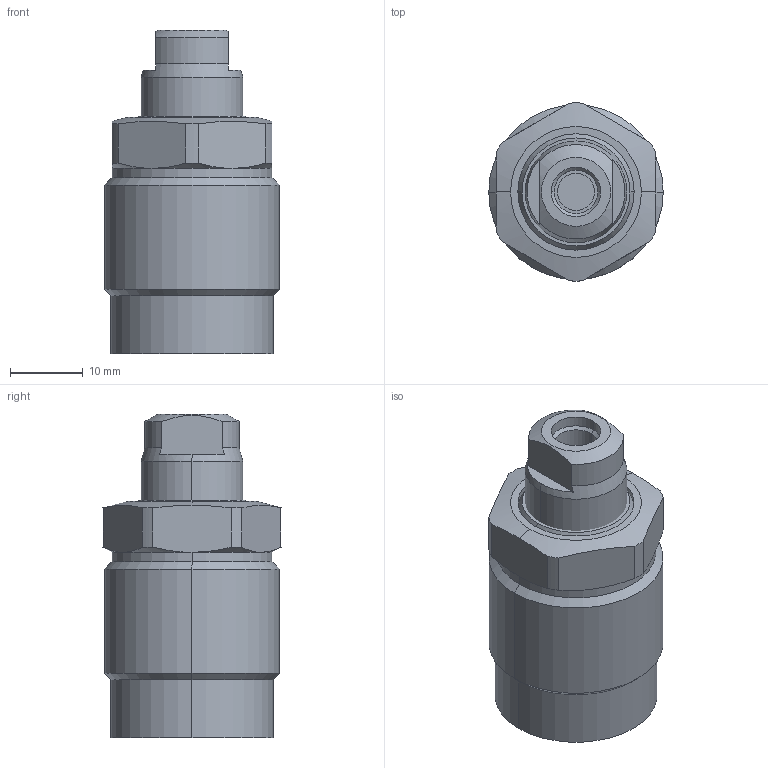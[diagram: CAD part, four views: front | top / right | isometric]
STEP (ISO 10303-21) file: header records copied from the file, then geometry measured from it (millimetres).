
FILE_DESCRIPTION (( 'STEP AP203' ), '1' );
FILE_NAME ('650241-AS.step', '2016-11-02T03:13:53', ( 'wxp' ), ( '' ), 'SwSTEP 2.0', 'SolidWorks 2011', '' );
FILE_SCHEMA (( 'CONFIG_CONTROL_DESIGN' ));
Length unit declared in the file: millimetre
Products named in the file (3): 650241-AS; 葩璃 650241-AS.sldasm-Part-2^650241-AS; 葩璃 650241-AS.sldasm-Part-1^650241-AS
Assembly tree (2 placements, depth 2):
  650241-AS
    葩璃 650241-AS.sldasm-Part-2^650241-AS
    葩璃 650241-AS.sldasm-Part-1^650241-AS
Bounding box: 24 x 24.49 x 44.5 mm (x, y, z)
Volume: 15249.9 mm3; surface area: 4614.8 mm2
Topology: 2 solids, 2 shells, 84 faces, 186 edges, 113 vertices
Faces by surface type: cylinder 34, cone 22, plane 22, torus 6
Entity records: 2693 total; most frequent: CARTESIAN_POINT 518, DIRECTION 430, ORIENTED_EDGE 368, AXIS2_PLACEMENT_3D 185, EDGE_CURVE 184, VERTEX_POINT 113, CIRCLE 96, EDGE_LOOP 93
